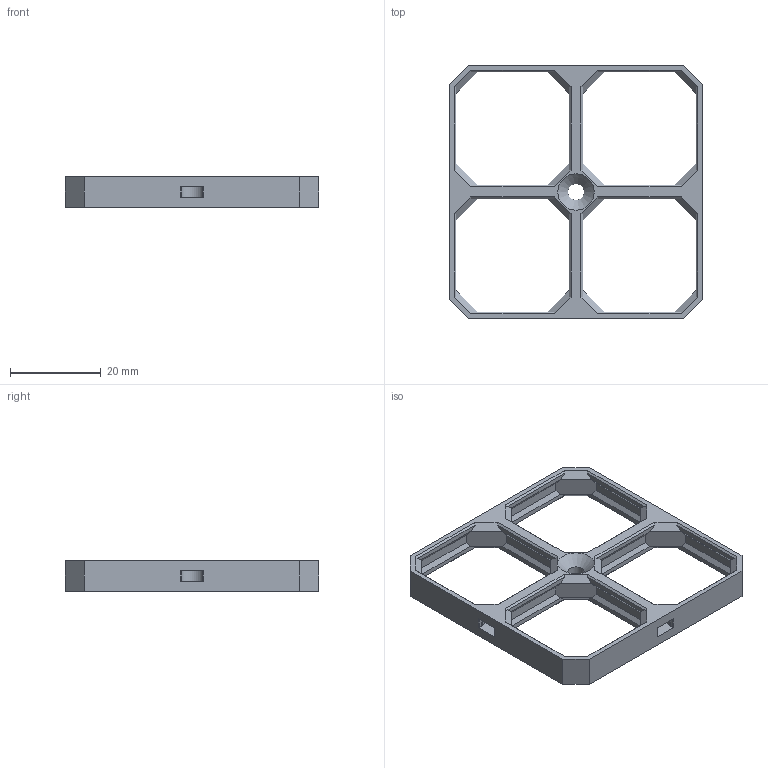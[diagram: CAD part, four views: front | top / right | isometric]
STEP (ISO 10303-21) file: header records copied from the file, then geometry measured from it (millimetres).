
FILE_DESCRIPTION(('FreeCAD Model'),'2;1');
FILE_NAME('Open CASCADE Shape Model','2025-07-11T13:35:41',(''),(''), 'Open CASCADE STEP processor 7.8','FreeCAD','Unknown');
FILE_SCHEMA(('AUTOMOTIVE_DESIGN { 1 0 10303 214 1 1 1 1 }'));
Length unit declared in the file: millimetre
Products named in the file (1): Chamfer
Bounding box: 56 x 56 x 6.8 mm (x, y, z)
Volume: 4322.9 mm3; surface area: 5635 mm2
Topology: 1 solids, 1 shells, 216 faces, 573 edges, 363 vertices
Faces by surface type: plane 186, cylinder 29, cone 1
Full cylindrical faces by diameter (mm): 3.6 x1
Entity records: 6590 total; most frequent: CARTESIAN_POINT 1153, ORIENTED_EDGE 1146, DIRECTION 1074, EDGE_CURVE 573, LINE 506, VECTOR 506, VERTEX_POINT 363, AXIS2_PLACEMENT_3D 284
